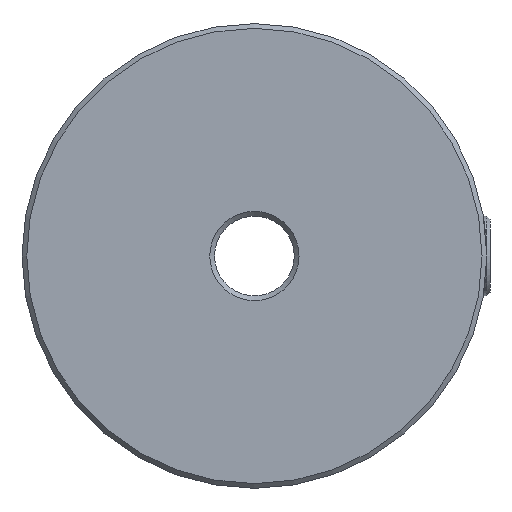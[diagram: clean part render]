
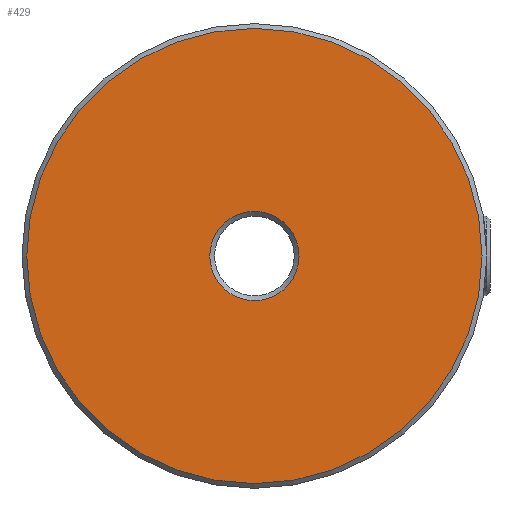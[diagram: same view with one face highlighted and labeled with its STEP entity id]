
A CAD part, front view. The second image highlights one B-rep face of the part: STEP entity #429.
In plain terms, the highlighted planar face has unit normal (0, -1, 0).
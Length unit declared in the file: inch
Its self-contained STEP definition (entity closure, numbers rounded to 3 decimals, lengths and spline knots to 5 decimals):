
#18=FACE_BOUND('',#83,.T.);
#30=CIRCLE('',#480,0.14);
#31=CIRCLE('',#482,0.714);
#55=FACE_OUTER_BOUND('',#82,.T.);
#82=EDGE_LOOP('',(#330));
#83=EDGE_LOOP('',(#331));
#202=VERTEX_POINT('',#692);
#203=VERTEX_POINT('',#696);
#250=EDGE_CURVE('',#202,#202,#30,.T.);
#251=EDGE_CURVE('',#203,#203,#31,.T.);
#330=ORIENTED_EDGE('',*,*,#251,.F.);
#331=ORIENTED_EDGE('',*,*,#250,.F.);
#408=PLANE('',#481);
#429=ADVANCED_FACE('',(#55,#18),#408,.T.);
#480=AXIS2_PLACEMENT_3D('',#694,#565,#566);
#481=AXIS2_PLACEMENT_3D('',#695,#567,#568);
#482=AXIS2_PLACEMENT_3D('',#697,#569,#570);
#565=DIRECTION('center_axis',(0.,-1.,0.));
#566=DIRECTION('ref_axis',(0.,0.,1.));
#567=DIRECTION('center_axis',(0.,-1.,0.));
#568=DIRECTION('ref_axis',(0.,0.,-1.));
#569=DIRECTION('center_axis',(0.,1.,0.));
#570=DIRECTION('ref_axis',(0.,0.,1.));
#692=CARTESIAN_POINT('',(0.,0.,-0.14));
#694=CARTESIAN_POINT('Origin',(0.,0.,0.));
#695=CARTESIAN_POINT('Origin',(0.,0.,-0.125));
#696=CARTESIAN_POINT('',(0.,0.,-0.714));
#697=CARTESIAN_POINT('Origin',(0.,0.,0.));
